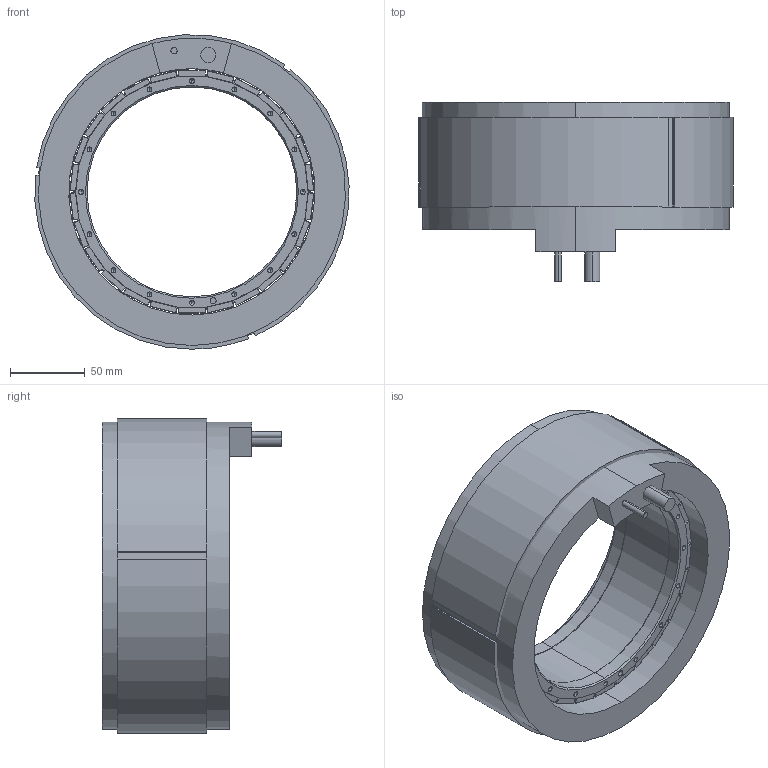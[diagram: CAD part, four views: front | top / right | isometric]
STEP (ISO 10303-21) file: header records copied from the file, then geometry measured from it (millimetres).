
FILE_DESCRIPTION (( 'STEP AP203' ), '1' );
FILE_NAME ('TM210-85 KIT.STEP', '2024-03-27T03:14:15', ( '' ), ( '' ), 'SwSTEP 2.0', 'SolidWorks 2021', '' );
FILE_SCHEMA (( 'CONFIG_CONTROL_DESIGN' ));
Length unit declared in the file: millimetre
Products named in the file (1): TM210-85 KIT
Bounding box: 209.71 x 120 x 209.86 mm (x, y, z)
Volume: 1559106 mm3; surface area: 356440.3 mm2
Topology: 29 solids, 29 shells, 980 faces, 2270 edges, 1112 vertices
Faces by surface type: cylinder 413, plane 291, sphere 208, cone 68
Entity records: 25117 total; most frequent: DIRECTION 4794, CARTESIAN_POINT 4091, ORIENTED_EDGE 3996, EDGE_CURVE 1998, AXIS2_PLACEMENT_3D 1815, LINE 1164, VECTOR 1164, VERTEX_POINT 1112
